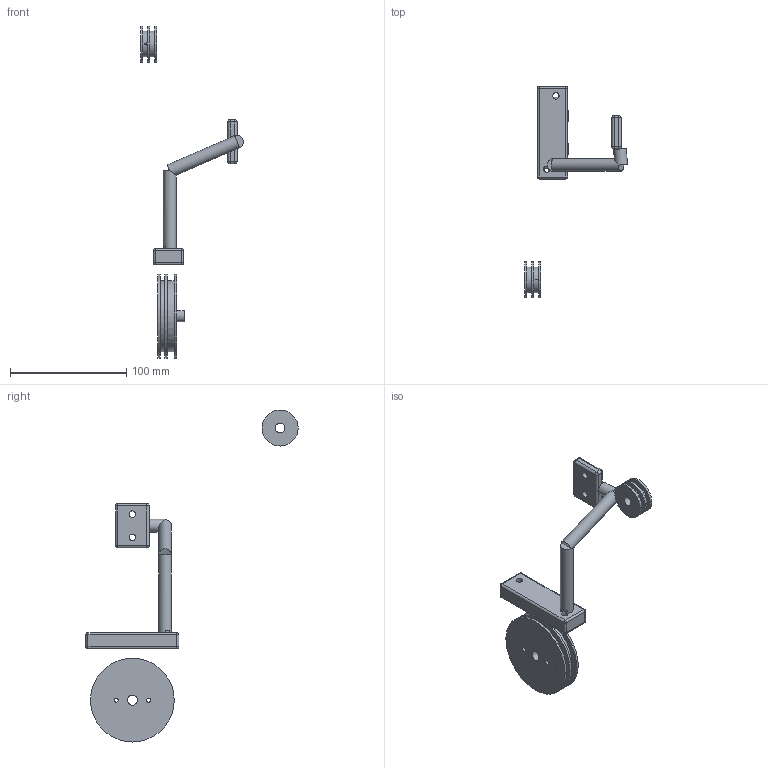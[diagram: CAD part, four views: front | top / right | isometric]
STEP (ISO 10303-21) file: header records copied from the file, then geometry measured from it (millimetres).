
FILE_DESCRIPTION(('Open CASCADE Model'),'2;1');
FILE_NAME('Open CASCADE Shape Model','2026-11-04T09:19:24',('Author'),( 'Open CASCADE'),'Open CASCADE STEP processor 7.8','Open CASCADE 7.8' ,'Unknown');
FILE_SCHEMA(('AUTOMOTIVE_DESIGN { 1 0 10303 214 1 1 1 1 }'));
Length unit declared in the file: millimetre
Products named in the file (4): V02_DUAL_BOWDEN_BENCH_CONCEPT; B01; B02; B03
Assembly tree (3 placements, depth 2):
  V02_DUAL_BOWDEN_BENCH_CONCEPT
    B01
    B02
    B03
Bounding box: 88.48 x 182.5 x 285.5 mm (x, y, z)
Volume: 109557.2 mm3; surface area: 36982.5 mm2
Topology: 3 solids, 5 shells, 107 faces, 225 edges, 122 vertices
Faces by surface type: cylinder 52, plane 39, sphere 16
Full cylindrical faces by diameter (mm): 2.4 x1, 2.7 x2, 3.6 x2, 5.4 x2, 5.5 x2, 8.2 x1, 8.5 x1, 9.4 x2, 11 x3, 22 x1, 31 x3, 61 x2, 72 x3
Entity records: 5753 total; most frequent: CARTESIAN_POINT 1146, DIRECTION 925, ORIENTED_EDGE 418, PCURVE 418, DEFINITIONAL_REPRESENTATION 418, LINE 399, VECTOR 399, AXIS2_PLACEMENT_3D 231
